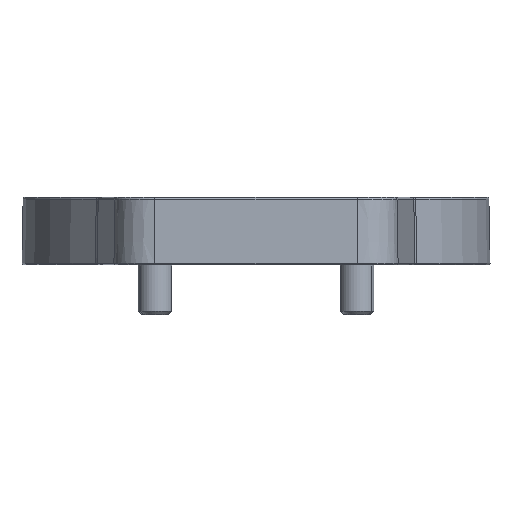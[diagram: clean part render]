
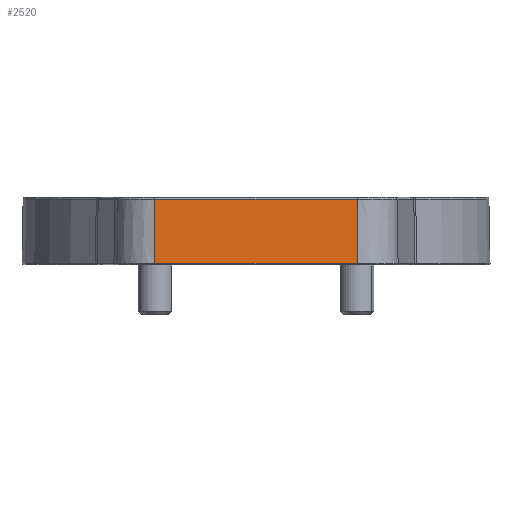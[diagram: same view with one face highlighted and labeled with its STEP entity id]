
A CAD part, left-side view. The second image highlights one B-rep face of the part: STEP entity #2520.
In plain terms, the highlighted planar face has unit normal (-1, 0, 0.018).
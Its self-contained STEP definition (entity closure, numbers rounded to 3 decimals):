
#1746 = DIRECTION ( 'NONE',  ( 0.017, 0., 1. ) ) ;
#2520 = ADVANCED_FACE ( 'NONE', ( #25843 ), #97428, .T. ) ;
#3265 = ORIENTED_EDGE ( 'NONE', *, *, #80240, .T. ) ;
#4981 = VECTOR ( 'NONE', #32680, 1000. ) ;
#8483 = VECTOR ( 'NONE', #77262, 1000. ) ;
#11016 = CARTESIAN_POINT ( 'NONE',  ( -11.039, -17.858, -6.217 ) ) ;
#13913 = CARTESIAN_POINT ( 'NONE',  ( -11.039, 12.142, -6.217 ) ) ;
#20004 = EDGE_CURVE ( 'NONE', #98898, #47361, #82528, .T. ) ;
#22109 = DIRECTION ( 'NONE',  ( 0., -1., 0. ) ) ;
#25843 = FACE_OUTER_BOUND ( 'NONE', #27231, .T. ) ;
#27231 = EDGE_LOOP ( 'NONE', ( #61194, #93799, #85669, #3265 ) ) ;
#27368 = DIRECTION ( 'NONE',  ( -1., 0., 0.017 ) ) ;
#28723 = CARTESIAN_POINT ( 'NONE',  ( -10.874, -17.858, 3.283 ) ) ;
#29690 = CARTESIAN_POINT ( 'NONE',  ( -10.869, -17.858, 3.528 ) ) ;
#32680 = DIRECTION ( 'NONE',  ( -0.017, 0., -1. ) ) ;
#34811 = EDGE_CURVE ( 'NONE', #76711, #47361, #84928, .T. ) ;
#39151 = CARTESIAN_POINT ( 'NONE',  ( -11.039, 12.142, -6.217 ) ) ;
#39179 = DIRECTION ( 'NONE',  ( 0., 1., 0. ) ) ;
#47361 = VERTEX_POINT ( 'NONE', #11016 ) ;
#50393 = CARTESIAN_POINT ( 'NONE',  ( -10.869, 12.142, 3.528 ) ) ;
#52524 = VECTOR ( 'NONE', #39179, 1000. ) ;
#54413 = VECTOR ( 'NONE', #22109, 1000. ) ;
#61194 = ORIENTED_EDGE ( 'NONE', *, *, #89404, .T. ) ;
#64376 = CARTESIAN_POINT ( 'NONE',  ( -10.869, 12.142, 3.528 ) ) ;
#70341 = LINE ( 'NONE', #100576, #52524 ) ;
#74182 = AXIS2_PLACEMENT_3D ( 'NONE', #50393, #27368, #1746 ) ;
#76711 = VERTEX_POINT ( 'NONE', #28723 ) ;
#77262 = DIRECTION ( 'NONE',  ( -0.017, 0., -1. ) ) ;
#80240 = EDGE_CURVE ( 'NONE', #76711, #85585, #70341, .T. ) ;
#82528 = LINE ( 'NONE', #13913, #54413 ) ;
#84928 = LINE ( 'NONE', #29690, #8483 ) ;
#85585 = VERTEX_POINT ( 'NONE', #94262 ) ;
#85669 = ORIENTED_EDGE ( 'NONE', *, *, #34811, .F. ) ;
#89404 = EDGE_CURVE ( 'NONE', #85585, #98898, #101237, .T. ) ;
#93799 = ORIENTED_EDGE ( 'NONE', *, *, #20004, .T. ) ;
#94262 = CARTESIAN_POINT ( 'NONE',  ( -10.874, 12.142, 3.283 ) ) ;
#97428 = PLANE ( 'NONE',  #74182 ) ;
#98898 = VERTEX_POINT ( 'NONE', #39151 ) ;
#100576 = CARTESIAN_POINT ( 'NONE',  ( -10.874, 12.142, 3.283 ) ) ;
#101237 = LINE ( 'NONE', #64376, #4981 ) ;
